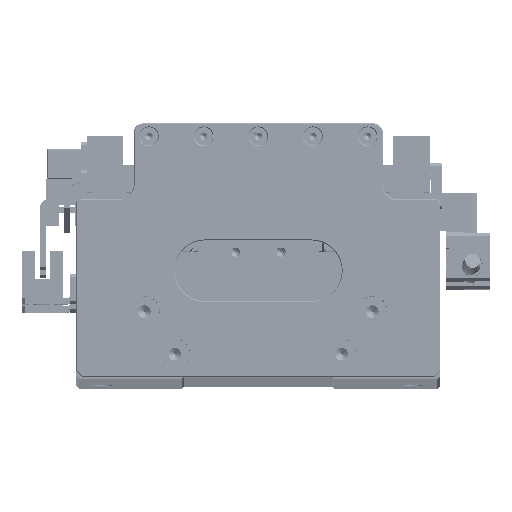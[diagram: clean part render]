
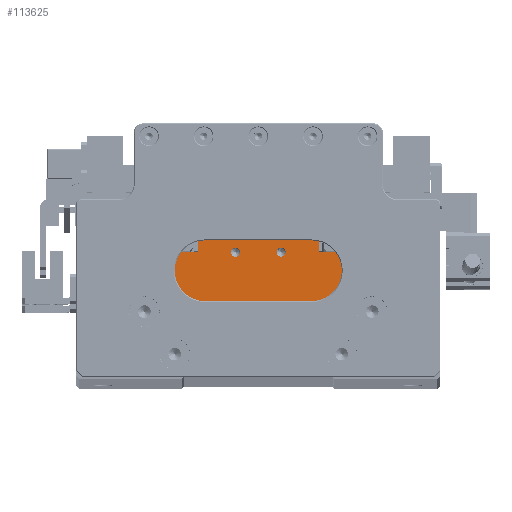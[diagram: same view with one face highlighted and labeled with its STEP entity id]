
A CAD part, top view. The second image highlights one B-rep face of the part: STEP entity #113625.
In plain terms, the highlighted planar face has unit normal (0, 0, 1).
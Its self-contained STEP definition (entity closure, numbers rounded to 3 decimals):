
#5021 = ORIENTED_EDGE ( 'NONE', *, *, #61792, .T. ) ;
#5348 = CARTESIAN_POINT ( 'NONE',  ( -9.194, 6.304, 411.036 ) ) ;
#6178 = VERTEX_POINT ( 'NONE', #70972 ) ;
#6978 = EDGE_CURVE ( 'NONE', #27885, #129749, #120190, .T. ) ;
#8040 = EDGE_LOOP ( 'NONE', ( #54764, #109627, #5021, #28756, #80252, #138750, #97979, #72378 ) ) ;
#8438 = CARTESIAN_POINT ( 'NONE',  ( -9.194, 6.304, 411.036 ) ) ;
#10520 = CARTESIAN_POINT ( 'NONE',  ( 5.806, 6.304, 411.036 ) ) ;
#11498 = ORIENTED_EDGE ( 'NONE', *, *, #136193, .F. ) ;
#11681 = AXIS2_PLACEMENT_3D ( 'NONE', #8438, #84727, #19441 ) ;
#13869 = EDGE_LOOP ( 'NONE', ( #118008, #56305 ) ) ;
#15910 = CARTESIAN_POINT ( 'NONE',  ( 5.806, 6.304, 411.036 ) ) ;
#16339 = DIRECTION ( 'NONE',  ( 1., 0., 0. ) ) ;
#16583 = VECTOR ( 'NONE', #102834, 1000. ) ;
#18154 = LINE ( 'NONE', #69362, #40357 ) ;
#19441 = DIRECTION ( 'NONE',  ( 1., 0., 0. ) ) ;
#21512 = DIRECTION ( 'NONE',  ( 1., 0., 0. ) ) ;
#23897 = CARTESIAN_POINT ( 'NONE',  ( -21.694, 10.204, 411.036 ) ) ;
#24620 = VECTOR ( 'NONE', #124357, 1000. ) ;
#24986 = EDGE_CURVE ( 'NONE', #129000, #103594, #79202, .T. ) ;
#26850 = DIRECTION ( 'NONE',  ( 1., 0., 0. ) ) ;
#27615 = CARTESIAN_POINT ( 'NONE',  ( 7.331, 6.304, 411.036 ) ) ;
#27885 = VERTEX_POINT ( 'NONE', #88678 ) ;
#28756 = ORIENTED_EDGE ( 'NONE', *, *, #114593, .F. ) ;
#29522 = VERTEX_POINT ( 'NONE', #23897 ) ;
#34887 = CARTESIAN_POINT ( 'NONE',  ( -31.594, 6.204, 411.036 ) ) ;
#36696 = VECTOR ( 'NONE', #90931, 1000. ) ;
#39483 = DIRECTION ( 'NONE',  ( 1., 0., 0. ) ) ;
#40357 = VECTOR ( 'NONE', #80331, 1000. ) ;
#43132 = CARTESIAN_POINT ( 'NONE',  ( -9.194, -1.296, 411.036 ) ) ;
#43766 = FACE_BOUND ( 'NONE', #13869, .T. ) ;
#45646 = LINE ( 'NONE', #80880, #16583 ) ;
#48021 = CARTESIAN_POINT ( 'NONE',  ( -9.194, 6.204, 411.036 ) ) ;
#48755 = AXIS2_PLACEMENT_3D ( 'NONE', #15910, #92151, #26850 ) ;
#50478 = CARTESIAN_POINT ( 'NONE',  ( -9.194, 6.204, 411.036 ) ) ;
#50962 = CIRCLE ( 'NONE', #11681, 1.525 ) ;
#53157 = CIRCLE ( 'NONE', #114421, 1.525 ) ;
#53647 = PLANE ( 'NONE',  #90455 ) ;
#54764 = ORIENTED_EDGE ( 'NONE', *, *, #76620, .F. ) ;
#56267 = EDGE_CURVE ( 'NONE', #118956, #6178, #75209, .T. ) ;
#56305 = ORIENTED_EDGE ( 'NONE', *, *, #73884, .F. ) ;
#57405 = VECTOR ( 'NONE', #89315, 1000. ) ;
#61074 = EDGE_CURVE ( 'NONE', #81307, #29522, #102094, .T. ) ;
#61792 = EDGE_CURVE ( 'NONE', #27885, #115692, #45646, .T. ) ;
#62723 = CARTESIAN_POINT ( 'NONE',  ( -21.694, 6.204, 411.036 ) ) ;
#62829 = VECTOR ( 'NONE', #91480, 1000. ) ;
#64972 = DIRECTION ( 'NONE',  ( -1., 0., 0. ) ) ;
#65644 = LINE ( 'NONE', #101915, #36696 ) ;
#67423 = CARTESIAN_POINT ( 'NONE',  ( -9.194, 10.204, 411.036 ) ) ;
#67644 = CARTESIAN_POINT ( 'NONE',  ( 4.281, 6.304, 411.036 ) ) ;
#69362 = CARTESIAN_POINT ( 'NONE',  ( 28.206, -1.296, 411.036 ) ) ;
#69503 = LINE ( 'NONE', #50478, #124205 ) ;
#69578 = CARTESIAN_POINT ( 'NONE',  ( -21.694, -1.296, 411.036 ) ) ;
#70972 = CARTESIAN_POINT ( 'NONE',  ( -7.669, 6.304, 411.036 ) ) ;
#72378 = ORIENTED_EDGE ( 'NONE', *, *, #61074, .F. ) ;
#73737 = EDGE_LOOP ( 'NONE', ( #11498, #84638 ) ) ;
#73884 = EDGE_CURVE ( 'NONE', #98615, #74316, #53157, .T. ) ;
#74316 = VERTEX_POINT ( 'NONE', #27615 ) ;
#74546 = CARTESIAN_POINT ( 'NONE',  ( -31.594, -1.296, 411.036 ) ) ;
#75209 = CIRCLE ( 'NONE', #79096, 1.525 ) ;
#76620 = EDGE_CURVE ( 'NONE', #129749, #81307, #69503, .T. ) ;
#79096 = AXIS2_PLACEMENT_3D ( 'NONE', #5348, #81651, #16339 ) ;
#79202 = LINE ( 'NONE', #48021, #24620 ) ;
#80252 = ORIENTED_EDGE ( 'NONE', *, *, #24986, .F. ) ;
#80331 = DIRECTION ( 'NONE',  ( 0., -1., 0. ) ) ;
#80880 = CARTESIAN_POINT ( 'NONE',  ( -9.194, -12.996, 411.036 ) ) ;
#81307 = VERTEX_POINT ( 'NONE', #62723 ) ;
#81651 = DIRECTION ( 'NONE',  ( 0., 0., 1. ) ) ;
#84638 = ORIENTED_EDGE ( 'NONE', *, *, #56267, .F. ) ;
#84727 = DIRECTION ( 'NONE',  ( 0., 0., 1. ) ) ;
#86461 = DIRECTION ( 'NONE',  ( 0., 1., 0. ) ) ;
#86829 = DIRECTION ( 'NONE',  ( 0., 0., 1. ) ) ;
#87653 = CARTESIAN_POINT ( 'NONE',  ( 28.206, -12.996, 411.036 ) ) ;
#88678 = CARTESIAN_POINT ( 'NONE',  ( -31.594, -12.996, 411.036 ) ) ;
#89315 = DIRECTION ( 'NONE',  ( 1., 0., 0. ) ) ;
#90455 = AXIS2_PLACEMENT_3D ( 'NONE', #43132, #130454, #64972 ) ;
#90931 = DIRECTION ( 'NONE',  ( 0., -1., 0. ) ) ;
#91480 = DIRECTION ( 'NONE',  ( 0., 1., 0. ) ) ;
#92151 = DIRECTION ( 'NONE',  ( 0., 0., 1. ) ) ;
#93653 = EDGE_CURVE ( 'NONE', #29522, #129191, #115388, .T. ) ;
#95557 = CARTESIAN_POINT ( 'NONE',  ( 18.306, 6.204, 411.036 ) ) ;
#97979 = ORIENTED_EDGE ( 'NONE', *, *, #93653, .F. ) ;
#98615 = VERTEX_POINT ( 'NONE', #67644 ) ;
#101718 = FACE_BOUND ( 'NONE', #73737, .T. ) ;
#101915 = CARTESIAN_POINT ( 'NONE',  ( 18.306, -1.296, 411.036 ) ) ;
#102094 = LINE ( 'NONE', #69578, #62829 ) ;
#102834 = DIRECTION ( 'NONE',  ( 1., 0., 0. ) ) ;
#103121 = EDGE_CURVE ( 'NONE', #129191, #129000, #65644, .T. ) ;
#103594 = VERTEX_POINT ( 'NONE', #109903 ) ;
#109627 = ORIENTED_EDGE ( 'NONE', *, *, #6978, .F. ) ;
#109903 = CARTESIAN_POINT ( 'NONE',  ( 28.206, 6.204, 411.036 ) ) ;
#110322 = CARTESIAN_POINT ( 'NONE',  ( 18.306, 10.204, 411.036 ) ) ;
#113625 = ADVANCED_FACE ( 'NONE', ( #130858, #43766, #101718 ), #53647, .F. ) ;
#114421 = AXIS2_PLACEMENT_3D ( 'NONE', #10520, #86829, #21512 ) ;
#114593 = EDGE_CURVE ( 'NONE', #103594, #115692, #18154, .T. ) ;
#115388 = LINE ( 'NONE', #67423, #57405 ) ;
#115692 = VERTEX_POINT ( 'NONE', #87653 ) ;
#116658 = EDGE_CURVE ( 'NONE', #74316, #98615, #120754, .T. ) ;
#116750 = VECTOR ( 'NONE', #86461, 1000. ) ;
#118008 = ORIENTED_EDGE ( 'NONE', *, *, #116658, .F. ) ;
#118956 = VERTEX_POINT ( 'NONE', #135731 ) ;
#120190 = LINE ( 'NONE', #74546, #116750 ) ;
#120754 = CIRCLE ( 'NONE', #48755, 1.525 ) ;
#124205 = VECTOR ( 'NONE', #39483, 1000. ) ;
#124357 = DIRECTION ( 'NONE',  ( 1., 0., 0. ) ) ;
#129000 = VERTEX_POINT ( 'NONE', #95557 ) ;
#129191 = VERTEX_POINT ( 'NONE', #110322 ) ;
#129749 = VERTEX_POINT ( 'NONE', #34887 ) ;
#130454 = DIRECTION ( 'NONE',  ( 0., 0., -1. ) ) ;
#130858 = FACE_OUTER_BOUND ( 'NONE', #8040, .T. ) ;
#135731 = CARTESIAN_POINT ( 'NONE',  ( -10.719, 6.304, 411.036 ) ) ;
#136193 = EDGE_CURVE ( 'NONE', #6178, #118956, #50962, .T. ) ;
#138750 = ORIENTED_EDGE ( 'NONE', *, *, #103121, .F. ) ;
